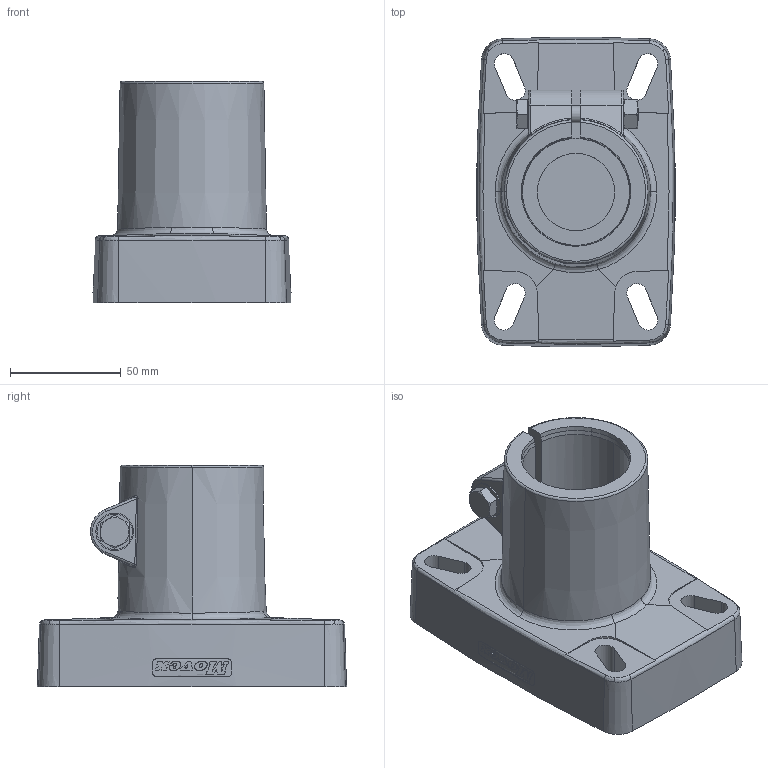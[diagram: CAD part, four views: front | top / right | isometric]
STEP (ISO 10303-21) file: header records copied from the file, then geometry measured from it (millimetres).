
FILE_DESCRIPTION(('CATIA V5 STEP Exchange'),'2;1');
FILE_NAME('C:\Users\ghidonia\Desktop\3d Clienti\P41001.stp','2012-07-19T10:19:44+00:00',('none'),('none'),'CATIA Version 5 Release 20 GA (IN-10)','CATIA V5 STEP AP203','none');
FILE_SCHEMA(('CONFIG_CONTROL_DESIGN'));
Length unit declared in the file: millimetre
Products named in the file (1): Prodotto1
Assembly tree (5 placements, depth 2):
  Prodotto1
    #58
    #53514
    #54098  x2
    #54282
Bounding box: 89.65 x 139.85 x 100 mm (x, y, z)
Volume: 289935.5 mm3; surface area: 112917.5 mm2
Topology: 5 solids, 17 shells, 1403 faces, 3855 edges, 2478 vertices
Faces by surface type: plane 989, cylinder 170, bspline 157, cone 52, sphere 29, torus 6
Entity records: 54809 total; most frequent: CARTESIAN_POINT 25275, ORIENTED_EDGE 7628, EDGE_CURVE 3814, DIRECTION 3626, VERTEX_POINT 2470, B_SPLINE_CURVE_WITH_KNOTS 2412, EDGE_LOOP 1434, AXIS2_PLACEMENT_3D 1424
